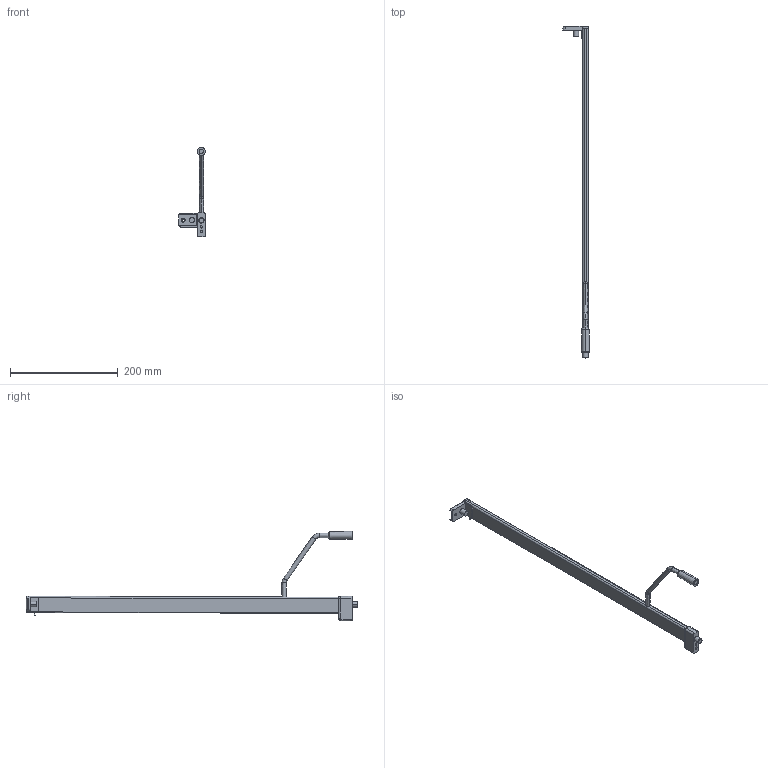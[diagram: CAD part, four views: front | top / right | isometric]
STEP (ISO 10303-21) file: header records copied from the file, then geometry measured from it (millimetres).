
FILE_DESCRIPTION (( 'STEP AP214' ), '1' );
FILE_NAME ('_2S_REL_7606_NL600_RE_Frontstütze.step', '2010-07-01T14:41:58', ( 'grass' ), ( '' ), 'SwSTEP 2.0', 'SolidWorks 2009', '' );
FILE_SCHEMA (( 'AUTOMOTIVE_DESIGN' ));
Length unit declared in the file: millimetre
Products named in the file (1): _2S_REL_7606_NL600_RE_Frontstütze
Bounding box: 49.75 x 615.5 x 165.5 mm (x, y, z)
Volume: 215523.8 mm3; surface area: 59157.8 mm2
Topology: 2 solids, 2 shells, 142 faces, 341 edges, 207 vertices
Faces by surface type: cylinder 60, plane 46, bspline 16, torus 12, cone 6, sphere 2
Entity records: 5412 total; most frequent: CARTESIAN_POINT 2208, ORIENTED_EDGE 678, DIRECTION 655, EDGE_CURVE 339, AXIS2_PLACEMENT_3D 251, VERTEX_POINT 207, LINE 153, VECTOR 153
